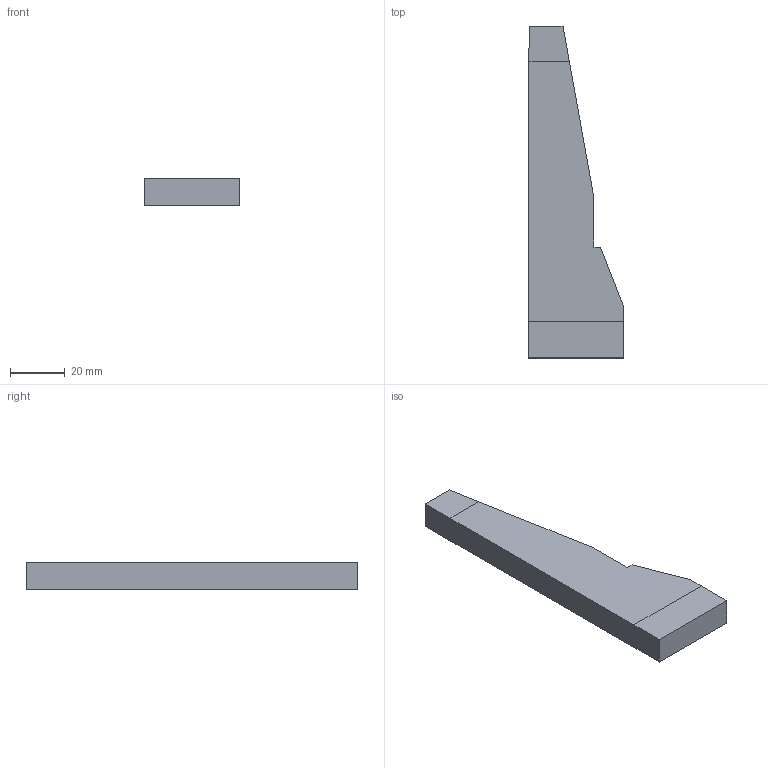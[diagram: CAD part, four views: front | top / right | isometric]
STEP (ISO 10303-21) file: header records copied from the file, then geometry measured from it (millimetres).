
FILE_DESCRIPTION (( 'STEP AP203' ), '1' );
FILE_NAME ('AB68- 3.STEP', '2024-02-16T17:57:30', ( '' ), ( '' ), 'SwSTEP 2.0', 'SolidWorks 2020', '' );
FILE_SCHEMA (( 'CONFIG_CONTROL_DESIGN' ));
Length unit declared in the file: millimetre
Products named in the file (1): AB68- 3
Bounding box: 34.69 x 120.84 x 10 mm (x, y, z)
Volume: 28632.8 mm3; surface area: 8663.9 mm2
Topology: 1 solids, 1 shells, 14 faces, 36 edges, 24 vertices
Faces by surface type: plane 14
Entity records: 497 total; most frequent: CARTESIAN_POINT 75, ORIENTED_EDGE 72, DIRECTION 66, LINE 36, VECTOR 36, EDGE_CURVE 36, VERTEX_POINT 24, AXIS2_PLACEMENT_3D 15
